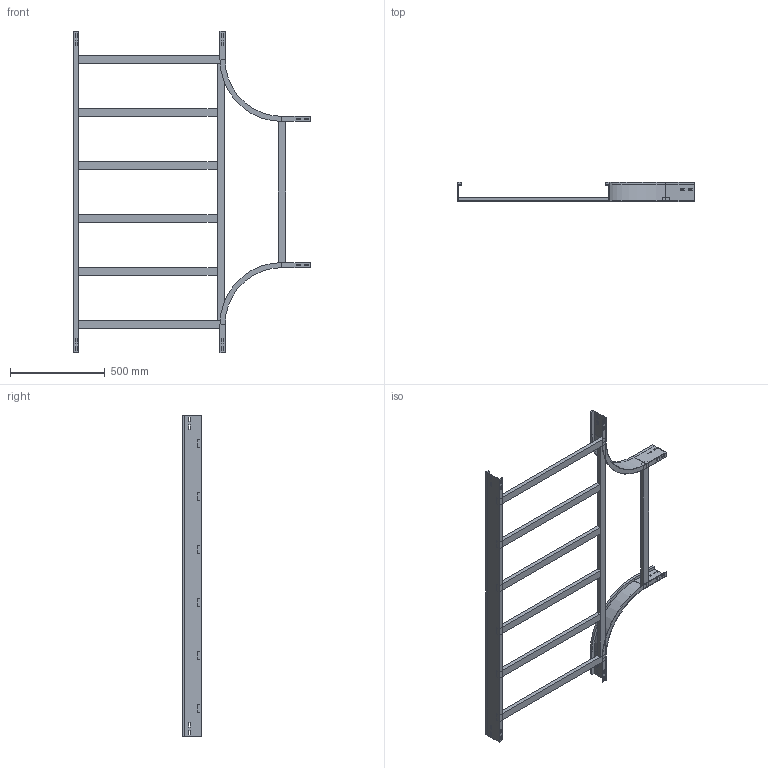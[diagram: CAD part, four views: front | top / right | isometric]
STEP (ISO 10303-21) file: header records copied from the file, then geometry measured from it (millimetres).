
FILE_DESCRIPTION (( 'STEP AP214' ), '1' );
FILE_NAME ('A2_15B3D800.step', '2025-02-21T15:49:52', ( '' ), ( '' ), 'SwSTEP 2.0', 'SolidWorks 2023', '' );
FILE_SCHEMA (( 'AUTOMOTIVE_DESIGN' ));
Length unit declared in the file: millimetre
Products named in the file (6): A2_LONGH.RETT_H100_R300+800; TRAVERSINO_INTERMEDIO_R300+800; A2_15B3D800; TRAVERSINO_800; A2_TRAVERSINO_LONG._R300+800; A2_LONGH.INTERNO 90°_H100_R300
Assembly tree (11 placements, depth 2):
  A2_15B3D800
    A2_LONGH.INTERNO 90°_H100_R300  x2
    A2_LONGH.RETT_H100_R300+800
    TRAVERSINO_800  x3
    A2_TRAVERSINO_LONG._R300+800
    TRAVERSINO_INTERMEDIO_R300+800  x4
Bounding box: 1250 x 100 x 1700 mm (x, y, z)
Volume: 6918016 mm3; surface area: 1762146.3 mm2
Topology: 11 solids, 11 shells, 206 faces, 520 edges, 336 vertices
Faces by surface type: plane 198, cylinder 8
Entity records: 3831 total; most frequent: CARTESIAN_POINT 640, ORIENTED_EDGE 616, DIRECTION 580, EDGE_CURVE 308, VECTOR 300, LINE 300, VERTEX_POINT 200, EDGE_LOOP 150
